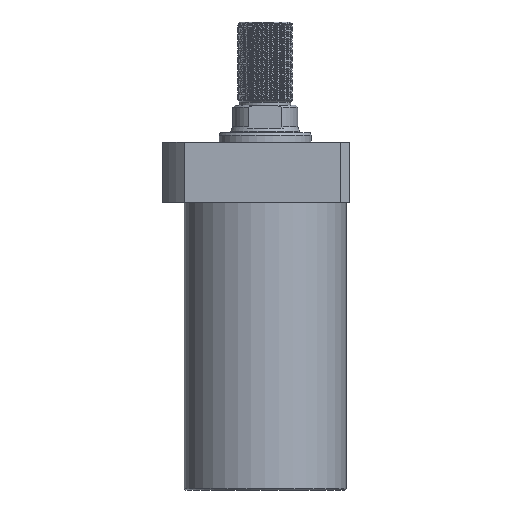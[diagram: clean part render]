
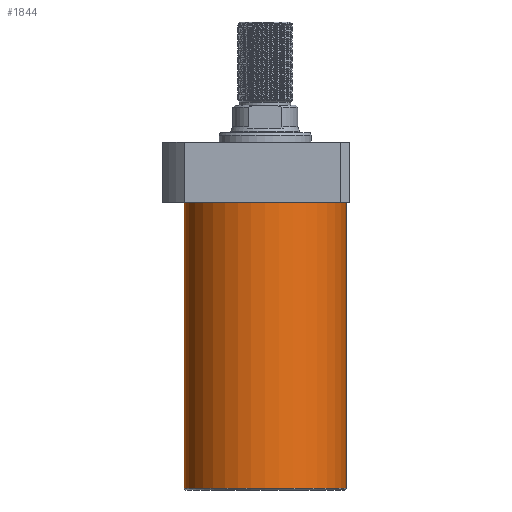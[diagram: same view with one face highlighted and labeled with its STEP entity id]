
A CAD part, front view. The second image highlights one B-rep face of the part: STEP entity #1844.
In plain terms, the highlighted cylindrical face has radius 52.5 mm (diameter 105 mm), a partial arc.
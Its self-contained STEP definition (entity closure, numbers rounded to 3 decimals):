
#138 = ORIENTED_EDGE ( 'NONE', *, *, #4893, .T. ) ;
#244 = CARTESIAN_POINT ( 'NONE',  ( 0., 0., -19.5 ) ) ;
#401 = EDGE_CURVE ( 'NONE', #515, #1888, #435, .T. ) ;
#435 = LINE ( 'NONE', #7141, #6883 ) ;
#515 = VERTEX_POINT ( 'NONE', #2398 ) ;
#868 = DIRECTION ( 'NONE',  ( 1., 0., 0. ) ) ;
#911 = VERTEX_POINT ( 'NONE', #1474 ) ;
#1083 = DIRECTION ( 'NONE',  ( 0., 0., 1. ) ) ;
#1098 = AXIS2_PLACEMENT_3D ( 'NONE', #2528, #6903, #3160 ) ;
#1474 = CARTESIAN_POINT ( 'NONE',  ( -52.5, 0., -205.5 ) ) ;
#1677 = CARTESIAN_POINT ( 'NONE',  ( 0., 0., -206.5 ) ) ;
#1710 = CARTESIAN_POINT ( 'NONE',  ( -52.5, 0., -206.5 ) ) ;
#1844 = ADVANCED_FACE ( 'NONE', ( #6639 ), #3312, .T. ) ;
#1866 = DIRECTION ( 'NONE',  ( 1., 0., 0. ) ) ;
#1888 = VERTEX_POINT ( 'NONE', #8054 ) ;
#2147 = VECTOR ( 'NONE', #7993, 1000. ) ;
#2398 = CARTESIAN_POINT ( 'NONE',  ( 52.5, 0., -205.5 ) ) ;
#2528 = CARTESIAN_POINT ( 'NONE',  ( 0., 0., -205.5 ) ) ;
#2559 = EDGE_LOOP ( 'NONE', ( #5234, #5436, #5779, #138 ) ) ;
#2750 = EDGE_CURVE ( 'NONE', #911, #515, #3301, .T. ) ;
#3160 = DIRECTION ( 'NONE',  ( -1., 0., 0. ) ) ;
#3185 = AXIS2_PLACEMENT_3D ( 'NONE', #244, #4602, #868 ) ;
#3301 = CIRCLE ( 'NONE', #1098, 52.5 ) ;
#3312 = CYLINDRICAL_SURFACE ( 'NONE', #7424, 52.5 ) ;
#3947 = EDGE_CURVE ( 'NONE', #911, #7115, #5488, .T. ) ;
#4127 = CIRCLE ( 'NONE', #3185, 52.5 ) ;
#4602 = DIRECTION ( 'NONE',  ( 0., 0., -1. ) ) ;
#4893 = EDGE_CURVE ( 'NONE', #1888, #7115, #4127, .T. ) ;
#5234 = ORIENTED_EDGE ( 'NONE', *, *, #3947, .F. ) ;
#5436 = ORIENTED_EDGE ( 'NONE', *, *, #2750, .T. ) ;
#5488 = LINE ( 'NONE', #1710, #2147 ) ;
#5779 = ORIENTED_EDGE ( 'NONE', *, *, #401, .T. ) ;
#6532 = DIRECTION ( 'NONE',  ( 0., 0., 1. ) ) ;
#6639 = FACE_OUTER_BOUND ( 'NONE', #2559, .T. ) ;
#6883 = VECTOR ( 'NONE', #6532, 1000. ) ;
#6903 = DIRECTION ( 'NONE',  ( 0., 0., 1. ) ) ;
#7115 = VERTEX_POINT ( 'NONE', #7974 ) ;
#7141 = CARTESIAN_POINT ( 'NONE',  ( 52.5, 0., -206.5 ) ) ;
#7424 = AXIS2_PLACEMENT_3D ( 'NONE', #1677, #1083, #1866 ) ;
#7974 = CARTESIAN_POINT ( 'NONE',  ( -52.5, 0., -19.5 ) ) ;
#7993 = DIRECTION ( 'NONE',  ( 0., 0., 1. ) ) ;
#8054 = CARTESIAN_POINT ( 'NONE',  ( 52.5, 0., -19.5 ) ) ;
